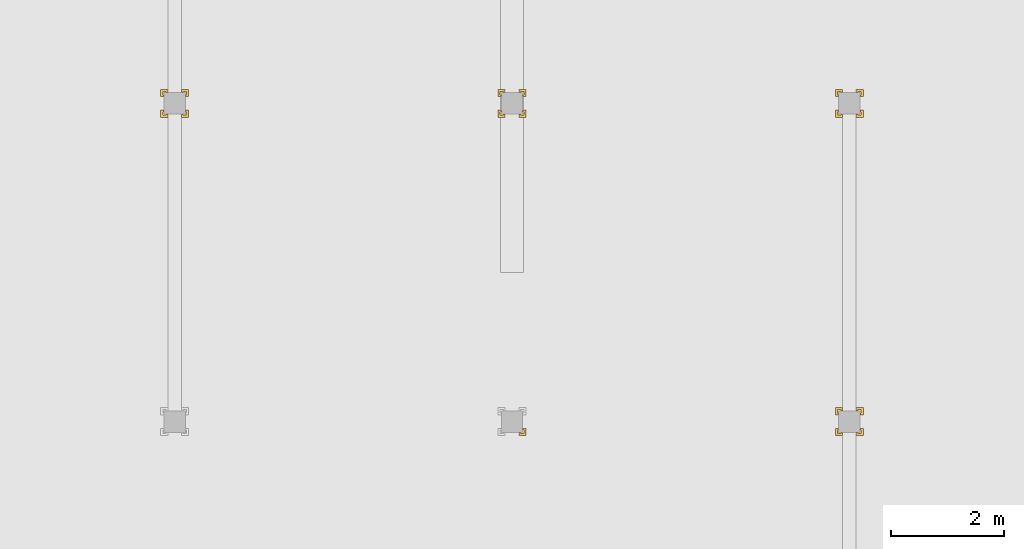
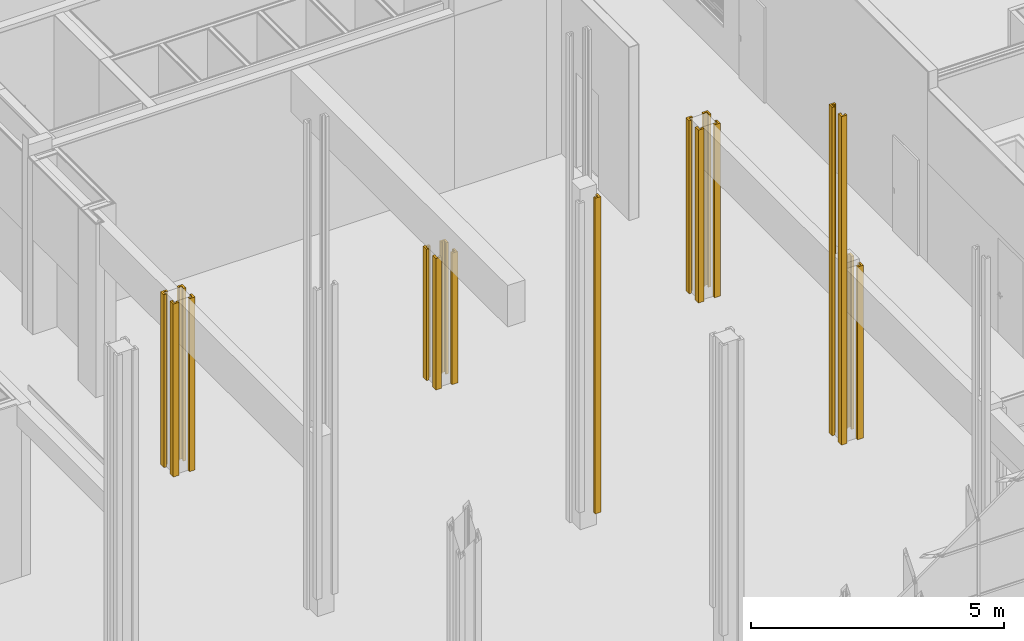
# One storey, part 257 of 260: 17 coverings.
"""IFC2X3 building model written with IfcOpenShell, lengths in millimetres."""

from ifc_helpers import new_model, entity, si_unit, converted_unit, derived_unit, money_unit, direction, frame, origin_with_axes, place, context, subcontext, project, spatial, faceted_brep, material, type_object, element, save


model = new_model("IFC2X3")

# Units and contexts
model_context = context("Model", 3, precision=0.01, world=origin_with_axes(), true_north=direction((0.0, 1.0)))
body_context = subcontext(model_context, "Body", "Model", "MODEL_VIEW")
ifc_project = project(units=[si_unit("LENGTHUNIT", "METRE", prefix="MILLI"), si_unit("AREAUNIT", "SQUARE_METRE"), si_unit("VOLUMEUNIT", "CUBIC_METRE"), converted_unit("PLANEANGLEUNIT", "DEGREE", entity("IfcPlaneAngleMeasure", 0.0174532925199), si_unit("PLANEANGLEUNIT", "RADIAN"), dimensions=[0, 0, 0, 0, 0, 0, 0]), money_unit("EUR"), converted_unit("TIMEUNIT", "Year", entity("IfcTimeMeasure", 31556926.0), si_unit("TIMEUNIT", "SECOND"), dimensions=[0, 0, 1, 0, 0, 0, 0]), si_unit("MASSUNIT", "GRAM", prefix="KILO"), si_unit("THERMODYNAMICTEMPERATUREUNIT", "DEGREE_CELSIUS"), si_unit("LUMINOUSINTENSITYUNIT", "LUMEN"), si_unit("ENERGYUNIT", "JOULE", prefix="MEGA"), derived_unit("THERMALCONDUCTANCEUNIT", [(si_unit("POWERUNIT", "WATT"), 1), (si_unit("LENGTHUNIT", "METRE"), -1), (si_unit("THERMODYNAMICTEMPERATUREUNIT", "KELVIN"), -1)]), derived_unit("SPECIFICHEATCAPACITYUNIT", [(si_unit("ENERGYUNIT", "JOULE"), 1), (si_unit("MASSUNIT", "GRAM", prefix="KILO"), -1), (si_unit("THERMODYNAMICTEMPERATUREUNIT", "KELVIN"), -1)]), derived_unit("MASSDENSITYUNIT", [(si_unit("MASSUNIT", "GRAM", prefix="KILO"), 1), (si_unit("VOLUMEUNIT", "CUBIC_METRE"), -1)])], contexts=[model_context])

# Site, building, storey
site_placement = place(None, origin_with_axes())
site = spatial("IfcSite", under=ifc_project, at=site_placement, Name="Kolde pst 67a", CompositionType="ELEMENT")
building_placement = place(site_placement, origin_with_axes())
building = spatial("IfcBuilding", under=site, at=building_placement, Name="Riigigümnaasium", CompositionType="ELEMENT")
storey_placement = place(building_placement, origin_with_axes())
storey = spatial("IfcBuildingStorey", under=building, at=storey_placement, Name="1. korrus", CompositionType="ELEMENT", Elevation=0.0)

# Coverings
ifc_material = material(Name="_KANDETARIND - liimpuit vastavalt EK osale")
covering_type = type_object("IfcCoveringType", Name="Aatriumi posti kõrvad 1 130 x 130", PredefinedType="NOTDEFINED")
covering_1_placement = place(storey_placement, frame((48229.9854607, 34439.9999729, 0.0), z_axis=(0.0, 0.0, 1.0), x_axis=(1.0, 0.0, 0.0)))
element("IfcCovering", 1, at=covering_1_placement, inside=storey, type_object=covering_type, material=ifc_material, Name="Posti katteelement", PredefinedType="NOTDEFINED", context=body_context, shape_type="Brep", body=[
    faceted_brep([(-119.999999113, -250.00000341, 7920.0), (-119.999999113, -250.00000341, 4600.0), (-119.999999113, -189.995101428, 4600.0), (-119.999999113, -189.995101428, 7920.0), (-120.016599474, -250.00000341, 4597.0), (-120.016599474, -250.00000341, 4600.0), (-250.0, -250.00000341, 7920.0), (-250.0, -250.00000341, 0.0), (-119.999999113, -250.00000341, 0.0), (-119.999999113, -250.00000341, 4170.0), (-120.016599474, -250.00000341, 4170.0), (-120.016599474, -250.00000341, 4450.0), (-120.016599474, -250.00000341, 4470.0), (-120.016599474, -250.00000341, 4500.0), (-120.016775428, -189.995101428, 4600.0), (-120.016775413, -190.0, 4170.0), (-119.999999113, -190.0, 4170.0), (-119.999999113, -189.995101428, 0.0), (-149.99999902, -189.995099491, 0.0), (-149.99999902, -189.995099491, 7920.0), (-120.016775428, -189.995101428, 4597.0), (-120.016775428, -189.995101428, 4500.0), (-120.016775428, -189.995101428, 4470.0), (-120.016775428, -189.995101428, 4450.0), (-149.99999902, -209.995099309, 7920.0), (-209.999998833, -209.995099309, 7920.0), (-209.999998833, -149.995099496, 7920.0), (-189.999999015, -149.995099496, 7920.0), (-190.000000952, -120.000002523, 7920.0), (-250.0, -120.000002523, 7920.0), (-250.0, -120.000002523, 0.0), (-190.000000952, -120.000002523, 0.0), (-189.999999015, -149.995099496, 0.0), (-209.999998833, -149.995099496, 0.0), (-209.999998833, -209.995099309, 0.0), (-149.99999902, -209.995099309, 0.0)], [[[0, 1, 2, 3]], [[4, 5, 1, 0, 6, 7, 8, 9, 10, 11, 12, 13]], [[5, 14, 2, 1]], [[15, 16, 17, 18, 19, 3, 2, 14, 20, 21, 22, 23]], [[24, 25, 26, 27, 28, 29, 6, 0, 3, 19]], [[4, 20, 14, 5]], [[30, 7, 6, 29]], [[17, 8, 7, 30, 31, 32, 33, 34, 35, 18]], [[17, 16, 9, 8]], [[10, 9, 16, 15]], [[15, 23, 11, 10]], [[11, 23, 22, 12]], [[12, 22, 21, 13]], [[13, 21, 20, 4]], [[18, 35, 24, 19]], [[35, 34, 25, 24]], [[34, 33, 26, 25]], [[33, 32, 27, 26]], [[32, 31, 28, 27]], [[31, 30, 29, 28]]]),
])
covering_2_placement = place(storey_placement, frame((48229.9854607, 40089.9999168, 0.0), z_axis=(0.0, 0.0, 1.0), x_axis=(1.0, 0.0, 0.0)))
element("IfcCovering", 2, at=covering_2_placement, inside=storey, type_object=covering_type, material=ifc_material, Name="Posti katteelement", PredefinedType="NOTDEFINED", context=body_context, shape_type="Brep", body=[
    faceted_brep([(-250.0, -120.000002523, 4170.0), (-190.000000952, -120.000002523, 4170.0), (-190.000000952, -120.000002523, 0.0), (-250.0, -120.000002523, 0.0), (-209.999998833, -149.995099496, 4170.0), (-189.999999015, -149.995099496, 4170.0), (-250.0, -250.00000341, 4170.0), (-119.999999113, -250.00000341, 4170.0), (-119.999999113, -189.995101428, 4170.0), (-149.99999902, -189.995099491, 4170.0), (-149.99999902, -209.995099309, 4170.0), (-209.999998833, -209.995099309, 4170.0), (-189.999999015, -149.995099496, 0.0), (-250.0, -250.00000341, 0.0), (-209.999998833, -149.995099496, 0.0), (-209.999998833, -209.995099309, 0.0), (-149.99999902, -209.995099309, 0.0), (-149.99999902, -189.995099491, 0.0), (-119.999999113, -189.995101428, 0.0), (-119.999999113, -250.00000341, 0.0)], [[[0, 1, 2, 3]], [[4, 5, 1, 0, 6, 7, 8, 9, 10, 11]], [[1, 5, 12, 2]], [[13, 3, 2, 12, 14, 15, 16, 17, 18, 19]], [[6, 0, 3, 13]], [[5, 4, 14, 12]], [[7, 6, 13, 19]], [[8, 7, 19, 18]], [[9, 8, 18, 17]], [[10, 9, 17, 16]], [[11, 10, 16, 15]], [[4, 11, 15, 14]]]),
])
covering_3_placement = place(storey_placement, frame((42239.99923, 40089.9999168, 0.0), z_axis=(0.0, 0.0, 1.0), x_axis=(1.0, 0.0, 0.0)))
element("IfcCovering", 3, at=covering_3_placement, inside=storey, type_object=covering_type, material=ifc_material, Name="Posti katteelement", PredefinedType="NOTDEFINED", context=body_context, shape_type="Brep", body=[
    faceted_brep([(-190.000000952, -120.000002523, 3170.0), (-190.000000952, -120.000002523, 0.0), (-250.0, -120.000002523, 0.0), (-250.0, -120.000002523, 3170.0), (-189.999999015, -149.995099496, 3170.0), (-189.999999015, -149.995099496, 0.0), (-209.999998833, -149.995099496, 0.0), (-209.999998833, -209.995099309, 0.0), (-149.99999902, -209.995099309, 0.0), (-149.99999902, -189.995099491, 0.0), (-119.999999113, -189.995101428, 0.0), (-119.999999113, -250.00000341, 0.0), (-250.0, -250.00000341, 0.0), (-250.0, -250.00000341, 3170.0), (-119.999999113, -250.00000341, 3170.0), (-119.999999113, -189.995101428, 3170.0), (-149.99999902, -189.995099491, 3170.0), (-149.99999902, -209.995099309, 3170.0), (-209.999998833, -209.995099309, 3170.0), (-209.999998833, -149.995099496, 3170.0)], [[[0, 1, 2, 3]], [[4, 5, 1, 0]], [[2, 1, 5, 6, 7, 8, 9, 10, 11, 12]], [[3, 2, 12, 13]], [[4, 0, 3, 13, 14, 15, 16, 17, 18, 19]], [[19, 6, 5, 4]], [[18, 7, 6, 19]], [[17, 8, 7, 18]], [[16, 9, 8, 17]], [[15, 10, 9, 16]], [[14, 11, 10, 15]], [[13, 12, 11, 14]]]),
])
covering_4_placement = place(storey_placement, frame((36249.99923, 40089.9999168, 0.0), z_axis=(0.0, 0.0, 1.0), x_axis=(1.0, 0.0, 0.0)))
element("IfcCovering", 4, at=covering_4_placement, inside=storey, type_object=covering_type, material=ifc_material, Name="Posti katteelement", PredefinedType="NOTDEFINED", context=body_context, shape_type="Brep", body=[
    faceted_brep([(-250.0, -120.000002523, 4170.0), (-190.000000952, -120.000002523, 4170.0), (-190.000000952, -120.000002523, 0.0), (-250.0, -120.000002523, 0.0), (-209.999998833, -149.995099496, 4170.0), (-189.999999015, -149.995099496, 4170.0), (-250.0, -250.00000341, 4170.0), (-119.999999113, -250.00000341, 4170.0), (-119.999999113, -189.995101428, 4170.0), (-149.99999902, -189.995099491, 4170.0), (-149.99999902, -209.995099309, 4170.0), (-209.999998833, -209.995099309, 4170.0), (-189.999999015, -149.995099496, 0.0), (-250.0, -250.00000341, 0.0), (-209.999998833, -149.995099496, 0.0), (-209.999998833, -209.995099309, 0.0), (-149.99999902, -209.995099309, 0.0), (-149.99999902, -189.995099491, 0.0), (-119.999999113, -189.995101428, 0.0), (-119.999999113, -250.00000341, 0.0)], [[[0, 1, 2, 3]], [[4, 5, 1, 0, 6, 7, 8, 9, 10, 11]], [[1, 5, 12, 2]], [[13, 3, 2, 12, 14, 15, 16, 17, 18, 19]], [[6, 0, 3, 13]], [[5, 4, 14, 12]], [[7, 6, 13, 19]], [[8, 7, 19, 18]], [[9, 8, 18, 17]], [[10, 9, 17, 16]], [[11, 10, 16, 15]], [[4, 11, 15, 14]]]),
])
covering_5_placement = place(storey_placement, frame((48229.9854607, 34439.9999729, 0.0), z_axis=(0.0, 0.0, 1.0), x_axis=(0.0, -1.0, 0.0)))
element("IfcCovering", 5, at=covering_5_placement, inside=storey, type_object=covering_type, material=ifc_material, Name="Posti katteelement", PredefinedType="NOTDEFINED", context=body_context, shape_type="Brep", body=[
    faceted_brep([(-190.000000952, -120.000002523, 7920.0), (-190.000000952, -120.000002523, 0.0), (-250.0, -120.000002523, 0.0), (-250.0, -120.000002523, 7920.0), (-189.999999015, -149.995099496, 7920.0), (-189.999999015, -149.995099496, 0.0), (-209.999998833, -149.995099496, 0.0), (-209.999998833, -209.995099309, 0.0), (-149.99999902, -209.995099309, 0.0), (-149.99999902, -189.995099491, 0.0), (-119.999999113, -189.995101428, 0.0), (-119.999999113, -250.00000341, 0.0), (-250.0, -250.00000341, 0.0), (-250.0, -250.00000341, 7920.0), (-119.999999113, -250.00000341, 7920.0), (-119.999999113, -189.995101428, 7920.0), (-149.99999902, -189.995099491, 7920.0), (-149.99999902, -209.995099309, 7920.0), (-209.999998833, -209.995099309, 7920.0), (-209.999998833, -149.995099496, 7920.0)], [[[0, 1, 2, 3]], [[4, 5, 1, 0]], [[2, 1, 5, 6, 7, 8, 9, 10, 11, 12]], [[3, 2, 12, 13]], [[4, 0, 3, 13, 14, 15, 16, 17, 18, 19]], [[19, 6, 5, 4]], [[18, 7, 6, 19]], [[17, 8, 7, 18]], [[16, 9, 8, 17]], [[15, 10, 9, 16]], [[14, 11, 10, 15]], [[13, 12, 11, 14]]]),
])
for number, where, z_axis, x_axis in (
    (6, (48229.9854607, 34439.9999729, 0.0), (0.0, 0.0, 1.0), (-1.0, 0.0, 0.0)),
    (7, (48229.9854607, 34439.9999729, 0.0), (0.0, 0.0, 1.0), (0.0, 1.0, 0.0)),
):
    element("IfcCovering", number, at=place(storey_placement, frame(where, z_axis=z_axis, x_axis=x_axis)), inside=storey, type_object=covering_type, material=ifc_material, Name="Posti katteelement", PredefinedType="NOTDEFINED", context=body_context, shape_type="Brep", body=[
        faceted_brep([(-190.000000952, -120.000002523, 4170.0), (-190.000000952, -120.000002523, 0.0), (-250.0, -120.000002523, 0.0), (-250.0, -120.000002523, 4170.0), (-189.999999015, -149.995099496, 4170.0), (-189.999999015, -149.995099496, 0.0), (-209.999998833, -149.995099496, 0.0), (-209.999998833, -209.995099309, 0.0), (-149.99999902, -209.995099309, 0.0), (-149.99999902, -189.995099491, 0.0), (-119.999999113, -189.995101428, 0.0), (-119.999999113, -250.00000341, 0.0), (-250.0, -250.00000341, 0.0), (-250.0, -250.00000341, 4170.0), (-119.999999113, -250.00000341, 4170.0), (-119.999999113, -189.995101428, 4170.0), (-149.99999902, -189.995099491, 4170.0), (-149.99999902, -209.995099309, 4170.0), (-209.999998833, -209.995099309, 4170.0), (-209.999998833, -149.995099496, 4170.0)], [[[0, 1, 2, 3]], [[4, 5, 1, 0]], [[2, 1, 5, 6, 7, 8, 9, 10, 11, 12]], [[3, 2, 12, 13]], [[4, 0, 3, 13, 14, 15, 16, 17, 18, 19]], [[19, 6, 5, 4]], [[18, 7, 6, 19]], [[17, 8, 7, 18]], [[16, 9, 8, 17]], [[15, 10, 9, 16]], [[14, 11, 10, 15]], [[13, 12, 11, 14]]]),
    ])
covering_6_placement = place(storey_placement, frame((42239.99923, 34439.9999729, 310.0), z_axis=(0.0, 0.0, 1.0), x_axis=(-1.16656692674e-05, 0.999999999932, 0.0)))
element("IfcCovering", 8, at=covering_6_placement, inside=storey, type_object=covering_type, material=ifc_material, Name="Posti katteelement", PredefinedType="NOTDEFINED", context=body_context, shape_type="Brep", body=[
    faceted_brep([(-190.000000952, -120.000002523, 7610.0), (-190.000000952, -120.000002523, 0.0), (-250.0, -120.000002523, 0.0), (-250.0, -120.000002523, 7610.0), (-189.999999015, -149.995099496, 7610.0), (-189.999999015, -149.995099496, 0.0), (-209.999998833, -149.995099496, 0.0), (-209.999998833, -209.995099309, 0.0), (-149.99999902, -209.995099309, 0.0), (-149.99999902, -189.995099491, 0.0), (-119.999999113, -189.995101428, 0.0), (-119.999999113, -250.00000341, 0.0), (-250.0, -250.00000341, 0.0), (-250.0, -250.00000341, 7610.0), (-119.999999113, -250.00000341, 7610.0), (-119.999999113, -189.995101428, 7610.0), (-149.99999902, -189.995099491, 7610.0), (-149.99999902, -209.995099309, 7610.0), (-209.999998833, -209.995099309, 7610.0), (-209.999998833, -149.995099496, 7610.0)], [[[0, 1, 2, 3]], [[4, 5, 1, 0]], [[2, 1, 5, 6, 7, 8, 9, 10, 11, 12]], [[3, 2, 12, 13]], [[4, 0, 3, 13, 14, 15, 16, 17, 18, 19]], [[19, 6, 5, 4]], [[18, 7, 6, 19]], [[17, 8, 7, 18]], [[16, 9, 8, 17]], [[15, 10, 9, 16]], [[14, 11, 10, 15]], [[13, 12, 11, 14]]]),
])
for number, where, z_axis, x_axis in (
    (9, (48229.9854607, 40089.9999168, 0.0), (0.0, 0.0, 1.0), (6.81973239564e-09, 1.0, 0.0)),
    (10, (48229.9854607, 40089.9999168, 0.0), (0.0, 0.0, 1.0), (-0.999999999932, -1.16724890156e-05, 0.0)),
    (11, (48229.9854607, 40089.9999168, 0.0), (0.0, 0.0, 1.0), (1.16656692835e-05, -0.999999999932, 0.0)),
):
    element("IfcCovering", number, at=place(storey_placement, frame(where, z_axis=z_axis, x_axis=x_axis)), inside=storey, type_object=covering_type, material=ifc_material, Name="Posti katteelement", PredefinedType="NOTDEFINED", context=body_context, shape_type="Brep", body=[
        faceted_brep([(-190.000000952, -120.000002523, 4170.0), (-190.000000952, -120.000002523, 0.0), (-250.0, -120.000002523, 0.0), (-250.0, -120.000002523, 4170.0), (-189.999999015, -149.995099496, 4170.0), (-189.999999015, -149.995099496, 0.0), (-209.999998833, -149.995099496, 0.0), (-209.999998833, -209.995099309, 0.0), (-149.99999902, -209.995099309, 0.0), (-149.99999902, -189.995099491, 0.0), (-119.999999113, -189.995101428, 0.0), (-119.999999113, -250.00000341, 0.0), (-250.0, -250.00000341, 0.0), (-250.0, -250.00000341, 4170.0), (-119.999999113, -250.00000341, 4170.0), (-119.999999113, -189.995101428, 4170.0), (-149.99999902, -189.995099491, 4170.0), (-149.99999902, -209.995099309, 4170.0), (-209.999998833, -209.995099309, 4170.0), (-209.999998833, -149.995099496, 4170.0)], [[[0, 1, 2, 3]], [[4, 5, 1, 0]], [[2, 1, 5, 6, 7, 8, 9, 10, 11, 12]], [[3, 2, 12, 13]], [[4, 0, 3, 13, 14, 15, 16, 17, 18, 19]], [[19, 6, 5, 4]], [[18, 7, 6, 19]], [[17, 8, 7, 18]], [[16, 9, 8, 17]], [[15, 10, 9, 16]], [[14, 11, 10, 15]], [[13, 12, 11, 14]]]),
    ])
for number, where, z_axis, x_axis in (
    (12, (42239.99923, 40089.9999168, 0.0), (0.0, 0.0, 1.0), (6.81973239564e-09, 1.0, 0.0)),
    (13, (42239.99923, 40089.9999168, 0.0), (0.0, 0.0, 1.0), (-0.999999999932, -1.16724890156e-05, 0.0)),
    (14, (42239.99923, 40089.9999168, 0.0), (0.0, 0.0, 1.0), (1.16656692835e-05, -0.999999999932, 0.0)),
):
    element("IfcCovering", number, at=place(storey_placement, frame(where, z_axis=z_axis, x_axis=x_axis)), inside=storey, type_object=covering_type, material=ifc_material, Name="Posti katteelement", PredefinedType="NOTDEFINED", context=body_context, shape_type="Brep", body=[
        faceted_brep([(-190.000000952, -120.000002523, 3170.0), (-190.000000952, -120.000002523, 0.0), (-250.0, -120.000002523, 0.0), (-250.0, -120.000002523, 3170.0), (-189.999999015, -149.995099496, 3170.0), (-189.999999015, -149.995099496, 0.0), (-209.999998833, -149.995099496, 0.0), (-209.999998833, -209.995099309, 0.0), (-149.99999902, -209.995099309, 0.0), (-149.99999902, -189.995099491, 0.0), (-119.999999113, -189.995101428, 0.0), (-119.999999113, -250.00000341, 0.0), (-250.0, -250.00000341, 0.0), (-250.0, -250.00000341, 3170.0), (-119.999999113, -250.00000341, 3170.0), (-119.999999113, -189.995101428, 3170.0), (-149.99999902, -189.995099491, 3170.0), (-149.99999902, -209.995099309, 3170.0), (-209.999998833, -209.995099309, 3170.0), (-209.999998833, -149.995099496, 3170.0)], [[[0, 1, 2, 3]], [[4, 5, 1, 0]], [[2, 1, 5, 6, 7, 8, 9, 10, 11, 12]], [[3, 2, 12, 13]], [[4, 0, 3, 13, 14, 15, 16, 17, 18, 19]], [[19, 6, 5, 4]], [[18, 7, 6, 19]], [[17, 8, 7, 18]], [[16, 9, 8, 17]], [[15, 10, 9, 16]], [[14, 11, 10, 15]], [[13, 12, 11, 14]]]),
    ])
for number, where, z_axis, x_axis in (
    (15, (36249.99923, 40089.9999168, 0.0), (0.0, 0.0, 1.0), (6.81973239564e-09, 1.0, 0.0)),
    (16, (36249.99923, 40089.9999168, 0.0), (0.0, 0.0, 1.0), (-0.999999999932, -1.16724890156e-05, 0.0)),
    (17, (36249.99923, 40089.9999168, 0.0), (0.0, 0.0, 1.0), (1.16656692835e-05, -0.999999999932, 0.0)),
):
    element("IfcCovering", number, at=place(storey_placement, frame(where, z_axis=z_axis, x_axis=x_axis)), inside=storey, type_object=covering_type, material=ifc_material, Name="Posti katteelement", PredefinedType="NOTDEFINED", context=body_context, shape_type="Brep", body=[
        faceted_brep([(-190.000000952, -120.000002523, 4170.0), (-190.000000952, -120.000002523, 0.0), (-250.0, -120.000002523, 0.0), (-250.0, -120.000002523, 4170.0), (-189.999999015, -149.995099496, 4170.0), (-189.999999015, -149.995099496, 0.0), (-209.999998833, -149.995099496, 0.0), (-209.999998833, -209.995099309, 0.0), (-149.99999902, -209.995099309, 0.0), (-149.99999902, -189.995099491, 0.0), (-119.999999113, -189.995101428, 0.0), (-119.999999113, -250.00000341, 0.0), (-250.0, -250.00000341, 0.0), (-250.0, -250.00000341, 4170.0), (-119.999999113, -250.00000341, 4170.0), (-119.999999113, -189.995101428, 4170.0), (-149.99999902, -189.995099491, 4170.0), (-149.99999902, -209.995099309, 4170.0), (-209.999998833, -209.995099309, 4170.0), (-209.999998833, -149.995099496, 4170.0)], [[[0, 1, 2, 3]], [[4, 5, 1, 0]], [[2, 1, 5, 6, 7, 8, 9, 10, 11, 12]], [[3, 2, 12, 13]], [[4, 0, 3, 13, 14, 15, 16, 17, 18, 19]], [[19, 6, 5, 4]], [[18, 7, 6, 19]], [[17, 8, 7, 18]], [[16, 9, 8, 17]], [[15, 10, 9, 16]], [[14, 11, 10, 15]], [[13, 12, 11, 14]]]),
    ])

save(model, "model.ifc")
